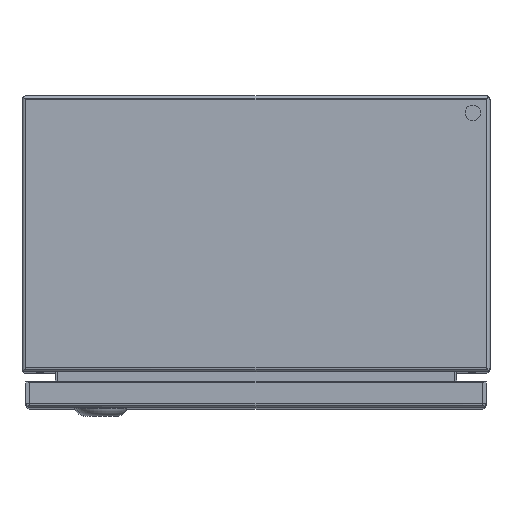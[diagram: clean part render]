
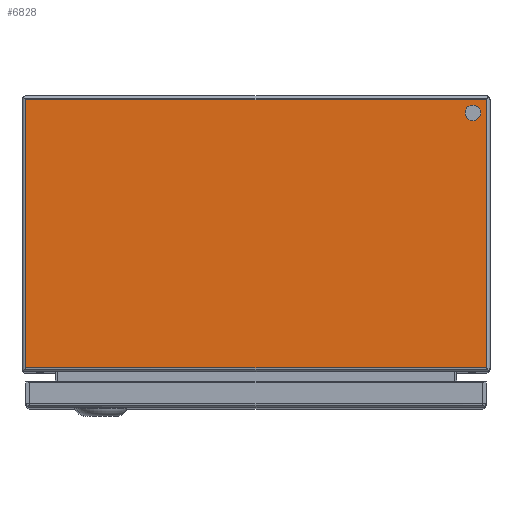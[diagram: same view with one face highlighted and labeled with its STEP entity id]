
A CAD part, top view. The second image highlights one B-rep face of the part: STEP entity #6828.
In plain terms, the highlighted planar face has unit normal (0, 0, 1).
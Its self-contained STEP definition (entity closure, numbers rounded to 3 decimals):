
#427=LINE('',#10833,#827);
#428=LINE('',#10836,#828);
#429=LINE('',#10838,#829);
#430=LINE('',#10840,#830);
#827=VECTOR('',#8477,1000.);
#828=VECTOR('',#8478,1000.);
#829=VECTOR('',#8479,1000.);
#830=VECTOR('',#8480,1000.);
#1288=ORIENTED_EDGE('',*,*,#3073,.F.);
#1289=ORIENTED_EDGE('',*,*,#3074,.T.);
#1290=ORIENTED_EDGE('',*,*,#3075,.F.);
#1291=ORIENTED_EDGE('',*,*,#3076,.F.);
#1292=ORIENTED_EDGE('',*,*,#3077,.T.);
#3073=EDGE_CURVE('',#3958,#3958,#4566,.T.);
#3074=EDGE_CURVE('',#3959,#3960,#427,.T.);
#3075=EDGE_CURVE('',#3961,#3960,#428,.T.);
#3076=EDGE_CURVE('',#3962,#3961,#429,.T.);
#3077=EDGE_CURVE('',#3962,#3959,#430,.T.);
#3958=VERTEX_POINT('',#10832);
#3959=VERTEX_POINT('',#10834);
#3960=VERTEX_POINT('',#10835);
#3961=VERTEX_POINT('',#10837);
#3962=VERTEX_POINT('',#10839);
#4566=CIRCLE('',#7381,5.);
#5039=EDGE_LOOP('',(#1288));
#5040=EDGE_LOOP('',(#1289,#1290,#1291,#1292));
#5859=FACE_BOUND('',#5039,.T.);
#5860=FACE_BOUND('',#5040,.T.);
#6648=PLANE('',#7380);
#6828=ADVANCED_FACE('',(#5859,#5860),#6648,.T.);
#7380=AXIS2_PLACEMENT_3D('',#10830,#8473,#8474);
#7381=AXIS2_PLACEMENT_3D('',#10831,#8475,#8476);
#8473=DIRECTION('',(0.,0.,1.));
#8474=DIRECTION('',(1.,0.,0.));
#8475=DIRECTION('',(0.,0.,1.));
#8476=DIRECTION('',(1.,0.,0.));
#8477=DIRECTION('',(-1.,0.,0.));
#8478=DIRECTION('',(0.,1.,0.));
#8479=DIRECTION('',(-1.,0.,0.));
#8480=DIRECTION('',(0.,1.,0.));
#10830=CARTESIAN_POINT('',(-147.5,-177.,500.));
#10831=CARTESIAN_POINT('',(139.,-11.,500.));
#10832=CARTESIAN_POINT('',(144.,-11.,500.));
#10833=CARTESIAN_POINT('',(400.,-2.5,500.));
#10834=CARTESIAN_POINT('',(147.5,-2.5,500.));
#10835=CARTESIAN_POINT('',(-147.5,-2.5,500.));
#10836=CARTESIAN_POINT('',(-147.5,-177.,500.));
#10837=CARTESIAN_POINT('',(-147.5,-174.5,500.));
#10838=CARTESIAN_POINT('',(400.,-174.5,500.));
#10839=CARTESIAN_POINT('',(147.5,-174.5,500.));
#10840=CARTESIAN_POINT('',(147.5,-177.,500.));
